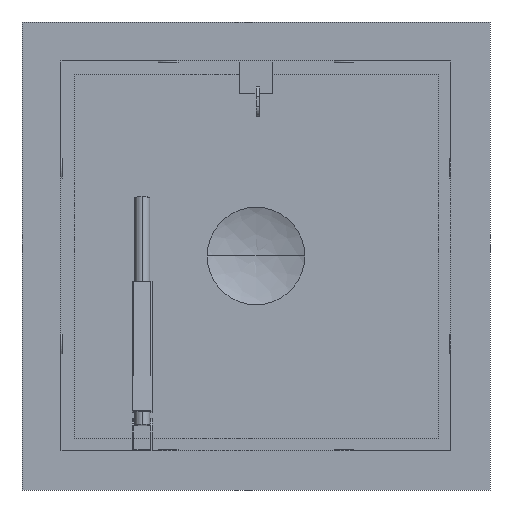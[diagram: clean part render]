
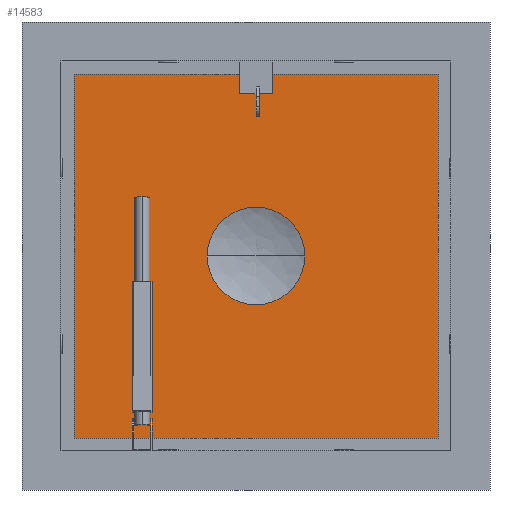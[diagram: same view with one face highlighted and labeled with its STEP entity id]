
A CAD part, front view. The second image highlights one B-rep face of the part: STEP entity #14583.
In plain terms, the highlighted planar face has unit normal (0, -1, 0).
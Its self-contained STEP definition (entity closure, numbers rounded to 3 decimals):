
#5844=DIRECTION('',(0.,0.,-1.));
#5845=VECTOR('',#5844,648.);
#5846=CARTESIAN_POINT('',(324.,75.,315.));
#5847=LINE('',#5846,#5845);
#5852=CARTESIAN_POINT('',(0.,75.,0.));
#5853=DIRECTION('',(0.,-1.,0.));
#5854=DIRECTION('',(-1.,0.,0.));
#5855=AXIS2_PLACEMENT_3D('',#5852,#5853,#5854);
#5857=CARTESIAN_POINT('',(0.,75.,0.));
#5858=DIRECTION('',(0.,-1.,0.));
#5859=DIRECTION('',(1.,0.,0.));
#5860=AXIS2_PLACEMENT_3D('',#5857,#5858,#5859);
#5862=DIRECTION('',(0.,0.,-1.));
#5863=VECTOR('',#5862,30.);
#5864=CARTESIAN_POINT('',(0.,75.,245.));
#5865=LINE('',#5864,#5863);
#5866=DIRECTION('',(1.,0.,0.));
#5867=VECTOR('',#5866,5.);
#5868=CARTESIAN_POINT('',(0.,75.,215.));
#5869=LINE('',#5868,#5867);
#5870=DIRECTION('',(0.,0.,-1.));
#5871=VECTOR('',#5870,30.);
#5872=CARTESIAN_POINT('',(5.,75.,245.));
#5873=LINE('',#5872,#5871);
#5874=DIRECTION('',(1.,0.,0.));
#5875=VECTOR('',#5874,5.);
#5876=CARTESIAN_POINT('',(0.,75.,245.));
#5877=LINE('',#5876,#5875);
#5878=DIRECTION('',(-1.,0.,0.));
#5879=VECTOR('',#5878,648.);
#5880=CARTESIAN_POINT('',(324.,75.,-333.));
#5881=LINE('',#5880,#5879);
#5886=DIRECTION('',(0.,0.,1.));
#5887=VECTOR('',#5886,648.);
#5888=CARTESIAN_POINT('',(-324.,75.,-333.));
#5889=LINE('',#5888,#5887);
#5894=DIRECTION('',(1.,0.,0.));
#5895=VECTOR('',#5894,648.);
#5896=CARTESIAN_POINT('',(-324.,75.,315.));
#5897=LINE('',#5896,#5895);
#11439=CARTESIAN_POINT('',(324.,75.,315.));
#11440=CARTESIAN_POINT('',(324.,75.,-333.));
#11441=VERTEX_POINT('',#11439);
#11442=VERTEX_POINT('',#11440);
#11443=CARTESIAN_POINT('',(-324.,75.,-333.));
#11444=VERTEX_POINT('',#11443);
#11445=CARTESIAN_POINT('',(-324.,75.,315.));
#11446=VERTEX_POINT('',#11445);
#11521=CARTESIAN_POINT('',(0.,75.,245.));
#11522=CARTESIAN_POINT('',(0.,75.,215.));
#11523=VERTEX_POINT('',#11521);
#11524=VERTEX_POINT('',#11522);
#11525=CARTESIAN_POINT('',(5.,75.,245.));
#11526=CARTESIAN_POINT('',(5.,75.,215.));
#11527=VERTEX_POINT('',#11525);
#11528=VERTEX_POINT('',#11526);
#11533=CARTESIAN_POINT('',(-75.,75.,0.));
#11534=CARTESIAN_POINT('',(75.,75.,0.));
#11535=VERTEX_POINT('',#11533);
#11536=VERTEX_POINT('',#11534);
#14553=CARTESIAN_POINT('',(0.,75.,0.));
#14554=DIRECTION('',(0.,1.,0.));
#14555=DIRECTION('',(0.,0.,-1.));
#14556=AXIS2_PLACEMENT_3D('',#14553,#14554,#14555);
#14557=PLANE('',#14556);
#14558=ORIENTED_EDGE('',*,*,#14543,.T.);
#14560=ORIENTED_EDGE('',*,*,#14559,.T.);
#14562=ORIENTED_EDGE('',*,*,#14561,.T.);
#14564=ORIENTED_EDGE('',*,*,#14563,.T.);
#14565=EDGE_LOOP('',(#14558,#14560,#14562,#14564));
#14566=FACE_OUTER_BOUND('',#14565,.F.);
#14568=ORIENTED_EDGE('',*,*,#14567,.T.);
#14570=ORIENTED_EDGE('',*,*,#14569,.T.);
#14571=EDGE_LOOP('',(#14568,#14570));
#14572=FACE_BOUND('',#14571,.F.);
#14574=ORIENTED_EDGE('',*,*,#14573,.T.);
#14576=ORIENTED_EDGE('',*,*,#14575,.T.);
#14578=ORIENTED_EDGE('',*,*,#14577,.F.);
#14580=ORIENTED_EDGE('',*,*,#14579,.F.);
#14581=EDGE_LOOP('',(#14574,#14576,#14578,#14580));
#14582=FACE_BOUND('',#14581,.F.);
#5856=CIRCLE('',#5855,75.);
#5861=CIRCLE('',#5860,75.);
#14543=EDGE_CURVE('',#11441,#11442,#5847,.T.);
#14559=EDGE_CURVE('',#11442,#11444,#5881,.T.);
#14561=EDGE_CURVE('',#11444,#11446,#5889,.T.);
#14563=EDGE_CURVE('',#11446,#11441,#5897,.T.);
#14567=EDGE_CURVE('',#11535,#11536,#5856,.T.);
#14569=EDGE_CURVE('',#11536,#11535,#5861,.T.);
#14573=EDGE_CURVE('',#11523,#11524,#5865,.T.);
#14575=EDGE_CURVE('',#11524,#11528,#5869,.T.);
#14577=EDGE_CURVE('',#11527,#11528,#5873,.T.);
#14579=EDGE_CURVE('',#11523,#11527,#5877,.T.);
#14583=ADVANCED_FACE('',(#14566,#14572,#14582),#14557,.F.);
